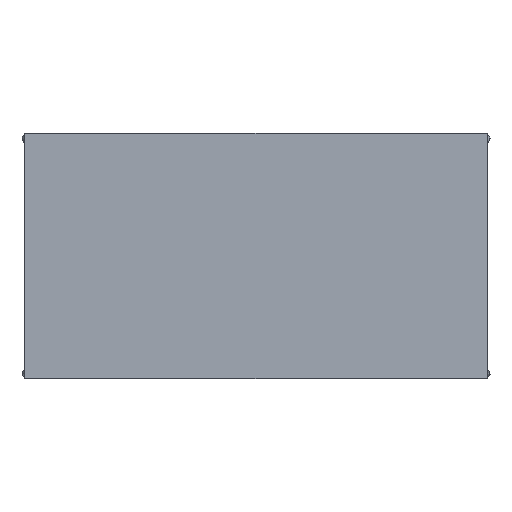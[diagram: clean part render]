
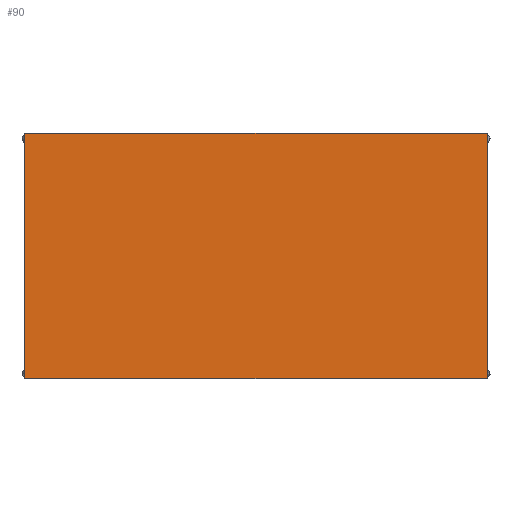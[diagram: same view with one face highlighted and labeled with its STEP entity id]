
A CAD part, top view. The second image highlights one B-rep face of the part: STEP entity #90.
In plain terms, the highlighted planar face has unit normal (0, 0, 1).
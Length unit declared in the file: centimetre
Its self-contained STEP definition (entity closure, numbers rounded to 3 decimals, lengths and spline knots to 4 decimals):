
#90=ADVANCED_FACE($,(#156),#732,.T.);
#156=FACE_OUTER_BOUND($,#222,.T.);
#222=EDGE_LOOP($,(#464,#465,#466,#467));
#464=ORIENTED_EDGE($,*,*,#584,.T.);
#465=ORIENTED_EDGE($,*,*,#585,.T.);
#466=ORIENTED_EDGE($,*,*,#586,.T.);
#467=ORIENTED_EDGE($,*,*,#587,.T.);
#584=EDGE_CURVE($,#660,#661,#846,.T.);
#585=EDGE_CURVE($,#661,#662,#847,.T.);
#586=EDGE_CURVE($,#662,#663,#848,.T.);
#587=EDGE_CURVE($,#663,#660,#849,.T.);
#660=VERTEX_POINT($,#2244);
#661=VERTEX_POINT($,#2245);
#662=VERTEX_POINT($,#2246);
#663=VERTEX_POINT($,#2247);
#732=PLANE($,#982);
#846=B_SPLINE_CURVE_WITH_KNOTS($,1,(#2214,#2215),.UNSPECIFIED.,.F.,.F.,(2,
2),(0.,170.),.UNSPECIFIED.);
#847=B_SPLINE_CURVE_WITH_KNOTS($,1,(#2216,#2217),.UNSPECIFIED.,.F.,.F.,(2,
2),(0.,90.),.UNSPECIFIED.);
#848=B_SPLINE_CURVE_WITH_KNOTS($,1,(#2218,#2219),.UNSPECIFIED.,.F.,.F.,(2,
2),(0.,170.),.UNSPECIFIED.);
#849=B_SPLINE_CURVE_WITH_KNOTS($,1,(#2220,#2221),.UNSPECIFIED.,.F.,.F.,(2,
2),(0.,90.),.UNSPECIFIED.);
#982=AXIS2_PLACEMENT_3D($,#2242,#1023,$);
#1023=DIRECTION($,(0.,0.,1.));
#2214=CARTESIAN_POINT($,(0.,0.,74.));
#2215=CARTESIAN_POINT($,(170.,0.,74.));
#2216=CARTESIAN_POINT($,(170.,0.,74.));
#2217=CARTESIAN_POINT($,(170.,90.,74.));
#2218=CARTESIAN_POINT($,(170.,90.,74.));
#2219=CARTESIAN_POINT($,(0.,90.,74.));
#2220=CARTESIAN_POINT($,(0.,90.,74.));
#2221=CARTESIAN_POINT($,(0.,0.,74.));
#2242=CARTESIAN_POINT($,(0.,0.,74.));
#2244=CARTESIAN_POINT($,(0.,0.,74.));
#2245=CARTESIAN_POINT($,(170.,0.,74.));
#2246=CARTESIAN_POINT($,(170.,90.,74.));
#2247=CARTESIAN_POINT($,(0.,90.,74.));
